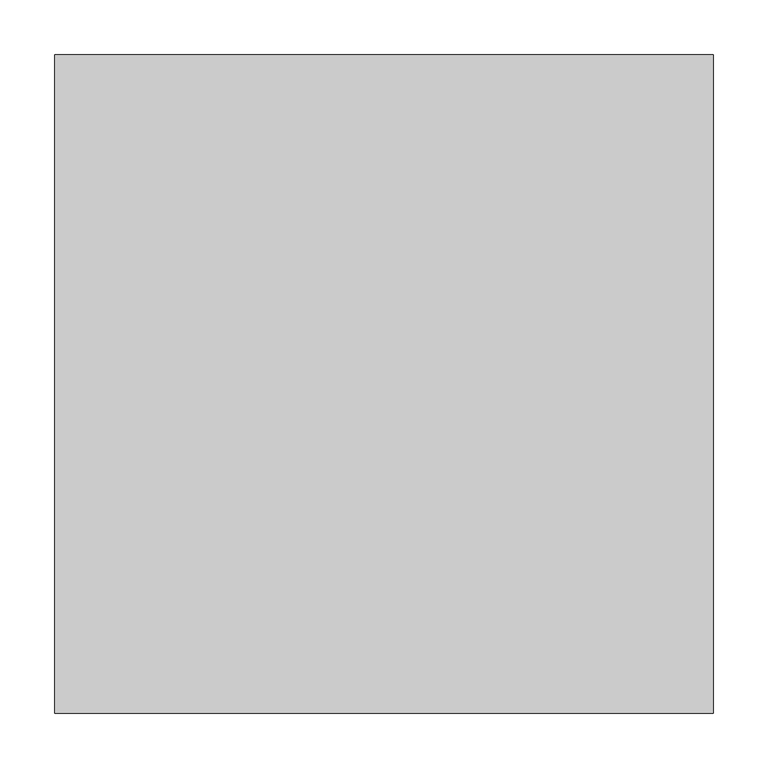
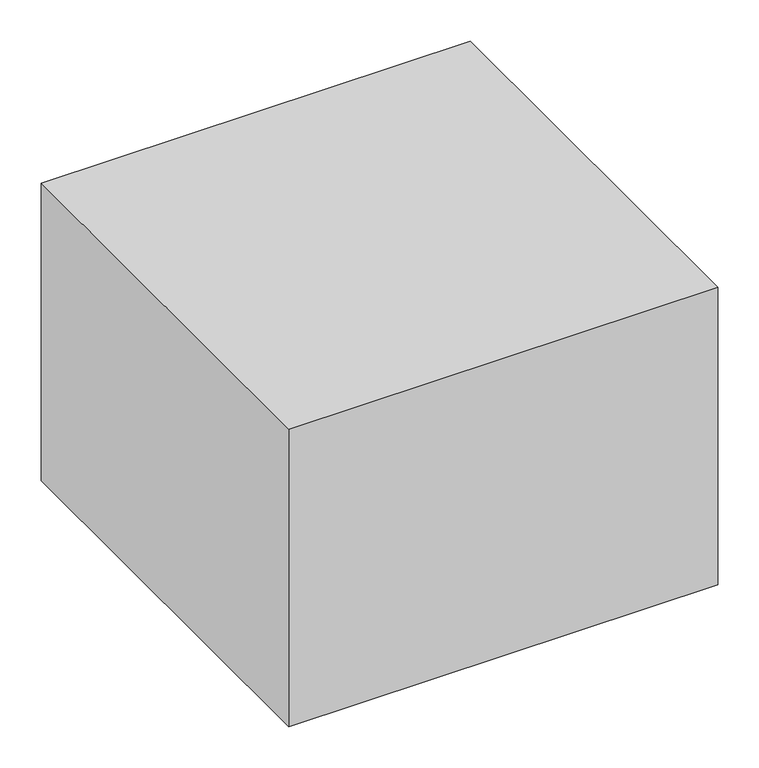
"""IFC4 building model written with IfcOpenShell, lengths in millimetres: proxy geometry, DMS-BWIC Family : BWIC_Square."""

from ifc_helpers import new_model, si_unit, frame, origin, place, context, project, spatial, polyline, outline, extrude, source, transform, mapped, element, save


def generic_models_7ba1ead4(model_context):
    return source(origin(), model_context, "Body", "SweptSolid", [
        extrude(outline(polyline([(300.0, 300.0), (300.0, -300.0), (-300.0, -300.0), (-300.0, 300.0), (300.0, 300.0)])), frame((0.0, 0.0, -440.0), z_axis=(0.0, 0.0, 1.0), x_axis=(1.0, 0.0, 0.0)), (0.0, 0.0, 1.0), 440.0),
    ])


if __name__ == "__main__":
    model = new_model("IFC4")
    model_context = context("Model", 3, world=origin())
    ifc_project = project(units=[si_unit("LENGTHUNIT", "METRE", prefix="MILLI")], contexts=[model_context])
    site = spatial("IfcSite", under=ifc_project)
    building = spatial("IfcBuilding", under=site)
    placement = place(None, origin())
    generic_models_shape = generic_models_7ba1ead4(model_context)
    element("IfcBuildingElementProxy", 1, Name="DMS-BWIC Family : BWIC_Square", ObjectType="DMS-BWIC Family : BWIC_Square", at=placement, inside=building, context=model_context, shape_type="MappedRepresentation", body=[
        mapped(generic_models_shape, transform((0.0, 0.0, 0.0), x_axis=(1.0, 0.0, 0.0), y_axis=(0.0, 1.0, 0.0), z_axis=(0.0, 0.0, 1.0))),
    ])
    save(model, "model.ifc")
